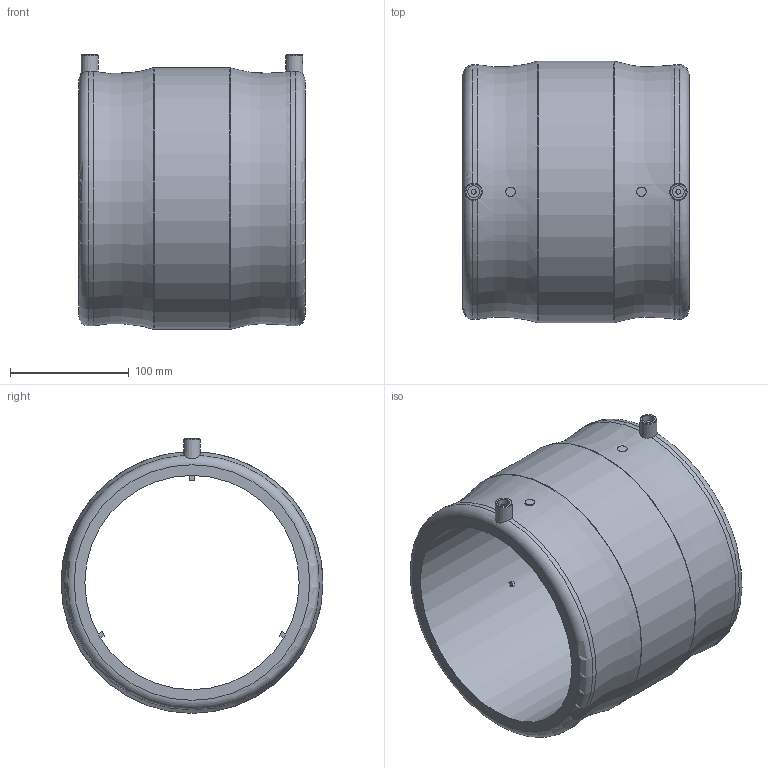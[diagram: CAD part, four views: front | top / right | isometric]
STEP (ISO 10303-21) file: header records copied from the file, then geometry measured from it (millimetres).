
FILE_DESCRIPTION(/* description */ ('Unknown'),/* implementation_level */ '2;1');
FILE_NAME(/* name */ 'MP180A',/* time_stamp */ '2021-05-06T08:27:52+02:00',/* author */ ('Unknown'),/* organization */ ('Unknown'),/* preprocessor_version */ 'ST-DEVELOPER v16.7',/* originating_system */ 'Solid Edge',/* authorisation */ 'Unknown');
FILE_SCHEMA (('AUTOMOTIVE_DESIGN {1 0 10303 214 3 1 1}'));
Length unit declared in the file: millimetre
Products named in the file (1): MP180A
Bounding box: 190 x 220 x 231 mm (x, y, z)
Volume: 2065594.3 mm3; surface area: 255878.3 mm2
Topology: 1 solids, 1 shells, 51 faces, 123 edges, 81 vertices
Faces by surface type: plane 25, cylinder 16, torus 8, cone 2
Full cylindrical faces by diameter (mm): 4 x2, 8 x2, 10 x2, 180 x1, 220 x1
Entity records: 1362 total; most frequent: CARTESIAN_POINT 278, DIRECTION 228, ORIENTED_EDGE 180, AXIS2_PLACEMENT_3D 96, EDGE_CURVE 90, EDGE_LOOP 80, FACE_BOUND 80, VERTEX_POINT 68
